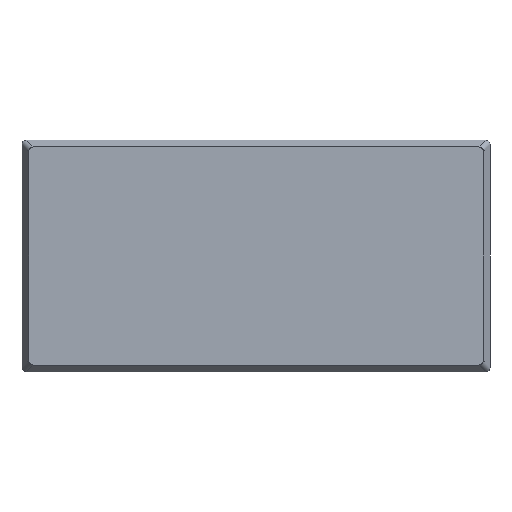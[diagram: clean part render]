
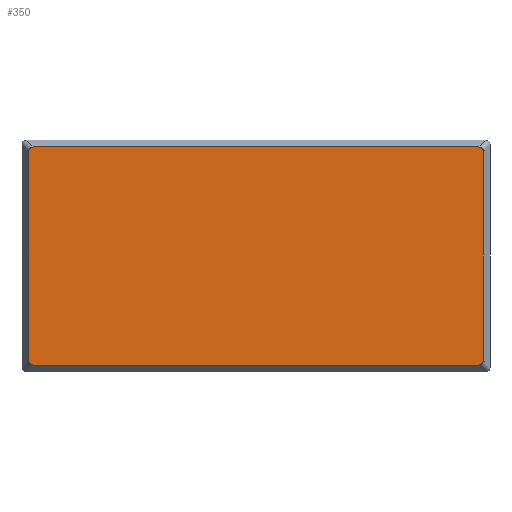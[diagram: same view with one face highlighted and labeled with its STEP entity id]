
A CAD part, front view. The second image highlights one B-rep face of the part: STEP entity #350.
In plain terms, the highlighted planar face has unit normal (0, -1, 0).
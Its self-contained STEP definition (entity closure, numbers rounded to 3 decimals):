
#20 = LINE ( 'NONE', #541, #215 ) ;
#21 = EDGE_LOOP ( 'NONE', ( #300, #193, #314, #29, #30, #274, #130, #301 ) ) ;
#29 = ORIENTED_EDGE ( 'NONE', *, *, #267, .T. ) ;
#30 = ORIENTED_EDGE ( 'NONE', *, *, #165, .F. ) ;
#43 = CARTESIAN_POINT ( 'NONE',  ( 47.014, -4., -22.014 ) ) ;
#62 = DIRECTION ( 'NONE',  ( 0., -1., 0. ) ) ;
#85 = EDGE_CURVE ( 'NONE', #255, #343, #338, .T. ) ;
#90 = CARTESIAN_POINT ( 'NONE',  ( -48.014, -4., 22.014 ) ) ;
#103 = CARTESIAN_POINT ( 'NONE',  ( -47.014, -4., 22.014 ) ) ;
#114 = CARTESIAN_POINT ( 'NONE',  ( 48.014, -4., -22.014 ) ) ;
#120 = DIRECTION ( 'NONE',  ( 0., -1., 0. ) ) ;
#129 = CARTESIAN_POINT ( 'NONE',  ( -47.014, -4., -23.014 ) ) ;
#130 = ORIENTED_EDGE ( 'NONE', *, *, #454, .F. ) ;
#136 = CIRCLE ( 'NONE', #275, 1. ) ;
#143 = EDGE_CURVE ( 'NONE', #520, #208, #545, .T. ) ;
#158 = AXIS2_PLACEMENT_3D ( 'NONE', #103, #393, #467 ) ;
#165 = EDGE_CURVE ( 'NONE', #520, #299, #468, .T. ) ;
#174 = DIRECTION ( 'NONE',  ( -1., 0., 0. ) ) ;
#176 = CARTESIAN_POINT ( 'NONE',  ( -48.014, -4., -23.014 ) ) ;
#177 = DIRECTION ( 'NONE',  ( 0., 0., 1. ) ) ;
#193 = ORIENTED_EDGE ( 'NONE', *, *, #85, .T. ) ;
#201 = DIRECTION ( 'NONE',  ( 0., 0., 1. ) ) ;
#208 = VERTEX_POINT ( 'NONE', #210 ) ;
#210 = CARTESIAN_POINT ( 'NONE',  ( 47.014, -4., 23.014 ) ) ;
#215 = VECTOR ( 'NONE', #177, 1000. ) ;
#222 = VERTEX_POINT ( 'NONE', #433 ) ;
#225 = CIRCLE ( 'NONE', #158, 1. ) ;
#228 = CARTESIAN_POINT ( 'NONE',  ( 48.014, -4., 22.014 ) ) ;
#236 = DIRECTION ( 'NONE',  ( 0., 1., 0. ) ) ;
#242 = EDGE_CURVE ( 'NONE', #222, #343, #453, .T. ) ;
#249 = DIRECTION ( 'NONE',  ( 0., 0., 1. ) ) ;
#250 = EDGE_CURVE ( 'NONE', #255, #603, #20, .T. ) ;
#254 = VECTOR ( 'NONE', #420, 1000. ) ;
#255 = VERTEX_POINT ( 'NONE', #560 ) ;
#258 = VERTEX_POINT ( 'NONE', #504 ) ;
#261 = CARTESIAN_POINT ( 'NONE',  ( 0., -4., 0. ) ) ;
#267 = EDGE_CURVE ( 'NONE', #222, #299, #136, .T. ) ;
#271 = AXIS2_PLACEMENT_3D ( 'NONE', #261, #236, #509 ) ;
#274 = ORIENTED_EDGE ( 'NONE', *, *, #143, .T. ) ;
#275 = AXIS2_PLACEMENT_3D ( 'NONE', #43, #321, #201 ) ;
#299 = VERTEX_POINT ( 'NONE', #114 ) ;
#300 = ORIENTED_EDGE ( 'NONE', *, *, #250, .F. ) ;
#301 = ORIENTED_EDGE ( 'NONE', *, *, #523, .T. ) ;
#314 = ORIENTED_EDGE ( 'NONE', *, *, #242, .F. ) ;
#321 = DIRECTION ( 'NONE',  ( 0., -1., 0. ) ) ;
#323 = PLANE ( 'NONE',  #271 ) ;
#334 = CARTESIAN_POINT ( 'NONE',  ( 48.014, -4., -23.014 ) ) ;
#336 = CARTESIAN_POINT ( 'NONE',  ( -47.014, -4., -22.014 ) ) ;
#338 = CIRCLE ( 'NONE', #510, 1. ) ;
#343 = VERTEX_POINT ( 'NONE', #129 ) ;
#350 = ADVANCED_FACE ( 'NONE', ( #405 ), #323, .F. ) ;
#358 = LINE ( 'NONE', #369, #596 ) ;
#369 = CARTESIAN_POINT ( 'NONE',  ( 48.014, -4., 23.014 ) ) ;
#393 = DIRECTION ( 'NONE',  ( 0., -1., 0. ) ) ;
#405 = FACE_OUTER_BOUND ( 'NONE', #21, .T. ) ;
#411 = DIRECTION ( 'NONE',  ( 1., 0., 0. ) ) ;
#414 = AXIS2_PLACEMENT_3D ( 'NONE', #485, #120, #438 ) ;
#420 = DIRECTION ( 'NONE',  ( 0., 0., -1. ) ) ;
#433 = CARTESIAN_POINT ( 'NONE',  ( 47.014, -4., -23.014 ) ) ;
#438 = DIRECTION ( 'NONE',  ( 0., 0., 1. ) ) ;
#453 = LINE ( 'NONE', #176, #484 ) ;
#454 = EDGE_CURVE ( 'NONE', #258, #208, #358, .T. ) ;
#467 = DIRECTION ( 'NONE',  ( 0., 0., 1. ) ) ;
#468 = LINE ( 'NONE', #334, #254 ) ;
#484 = VECTOR ( 'NONE', #174, 1000. ) ;
#485 = CARTESIAN_POINT ( 'NONE',  ( 47.014, -4., 22.014 ) ) ;
#504 = CARTESIAN_POINT ( 'NONE',  ( -47.014, -4., 23.014 ) ) ;
#509 = DIRECTION ( 'NONE',  ( 0., 0., 1. ) ) ;
#510 = AXIS2_PLACEMENT_3D ( 'NONE', #336, #62, #249 ) ;
#520 = VERTEX_POINT ( 'NONE', #228 ) ;
#523 = EDGE_CURVE ( 'NONE', #258, #603, #225, .T. ) ;
#541 = CARTESIAN_POINT ( 'NONE',  ( -48.014, -4., 23.014 ) ) ;
#545 = CIRCLE ( 'NONE', #414, 1. ) ;
#560 = CARTESIAN_POINT ( 'NONE',  ( -48.014, -4., -22.014 ) ) ;
#596 = VECTOR ( 'NONE', #411, 1000. ) ;
#603 = VERTEX_POINT ( 'NONE', #90 ) ;
